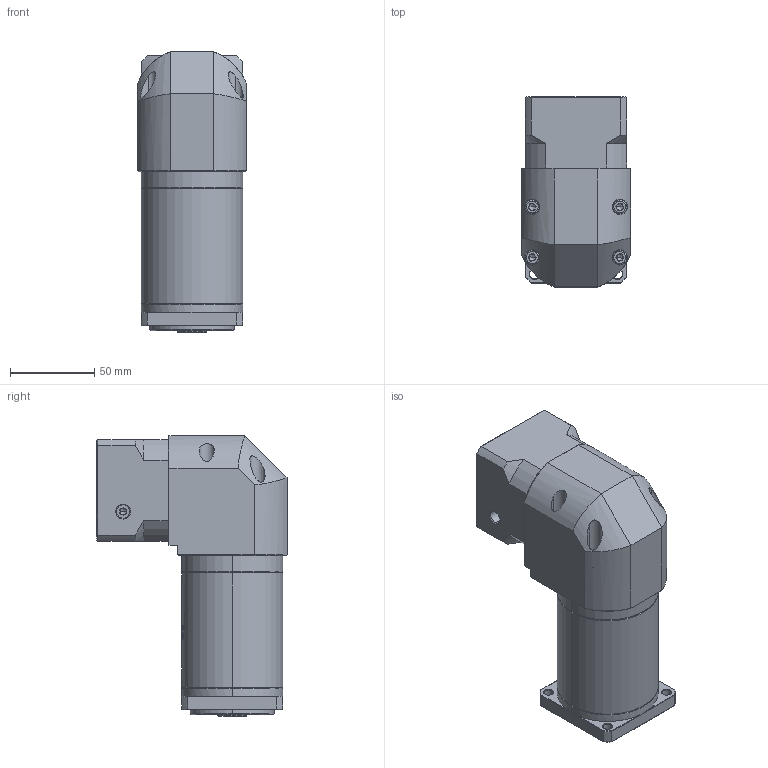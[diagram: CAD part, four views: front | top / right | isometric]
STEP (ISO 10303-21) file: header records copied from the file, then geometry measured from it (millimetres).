
FILE_DESCRIPTION (( 'STEP AP214' ), '1' );
FILE_NAME ('ZFR060-K10-L3-P2-8-30-46-M4.step', '2023-08-17T03:40:07', ( '' ), ( '' ), 'SwSTEP 2.0', 'SolidWorks 2016', '' );
FILE_SCHEMA (( 'AUTOMOTIVE_DESIGN' ));
Length unit declared in the file: millimetre
Products named in the file (1): ZFR060-K10-L3-P2-8-30-46-M4
Bounding box: 65 x 112.7 x 166.5 mm (x, y, z)
Volume: 636398.1 mm3; surface area: 85671.8 mm2
Topology: 5 solids, 6 shells, 1901 faces, 5117 edges, 3317 vertices
Faces by surface type: plane 838, bspline 411, cylinder 348, cone 280, torus 24
Entity records: 117820 total; most frequent: CARTESIAN_POINT 53589, ORIENTED_EDGE 10210, DIRECTION 7437, EDGE_CURVE 5105, VERTEX_POINT 3317, LINE 2533, VECTOR 2533, AXIS2_PLACEMENT_3D 2452
